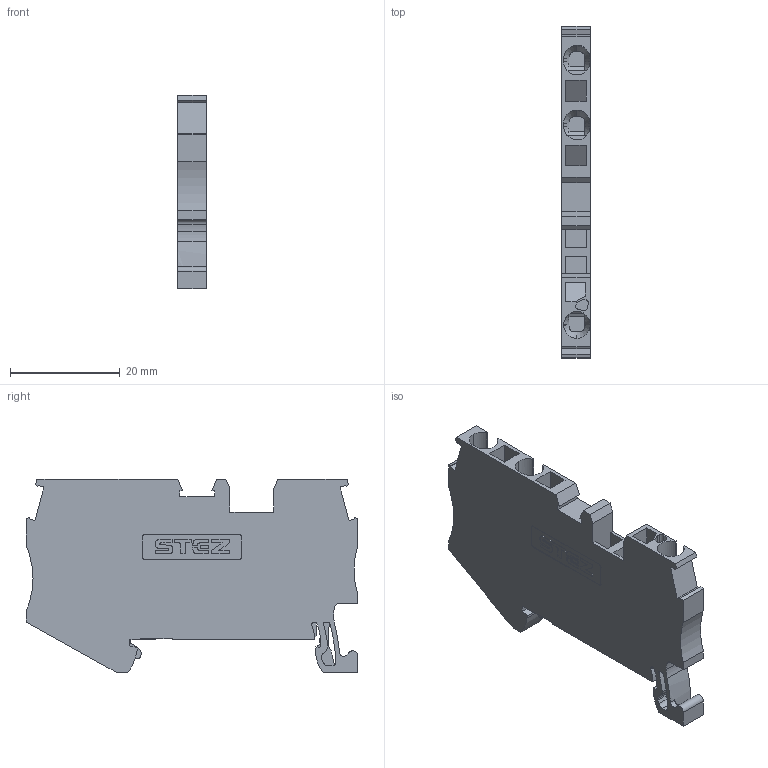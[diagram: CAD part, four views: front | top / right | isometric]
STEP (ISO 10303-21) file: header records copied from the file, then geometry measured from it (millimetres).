
FILE_DESCRIPTION(('TFLEX Exchange Step'),'2;1');
FILE_NAME('10000082_KH3_2,5-3-PE.stp', '2023-10-02T10:45:49+03:00',('apanin'),('Unknown organisation'),'TFLEX Exchange 2023.0','T-FLEX CAD','Unknown authorisation');
FILE_SCHEMA( ('AUTOMOTIVE_DESIGN { 1 0 10303 214 1 1 1 1 }') );
Length unit declared in the file: millimetre
Products named in the file (1): Тело_1:1
Bounding box: 5.15 x 60.4 x 35.25 mm (x, y, z)
Volume: 7609 mm3; surface area: 5694.7 mm2
Topology: 1 solids, 1 shells, 474 faces, 1377 edges, 916 vertices
Faces by surface type: cylinder 238, plane 224, cone 12
Entity records: 16713 total; most frequent: CARTESIAN_POINT 3829, ORIENTED_EDGE 2754, DIRECTION 2651, EDGE_CURVE 1377, AXIS2_PLACEMENT_3D 952, VERTEX_POINT 916, VECTOR 747, LINE 747
